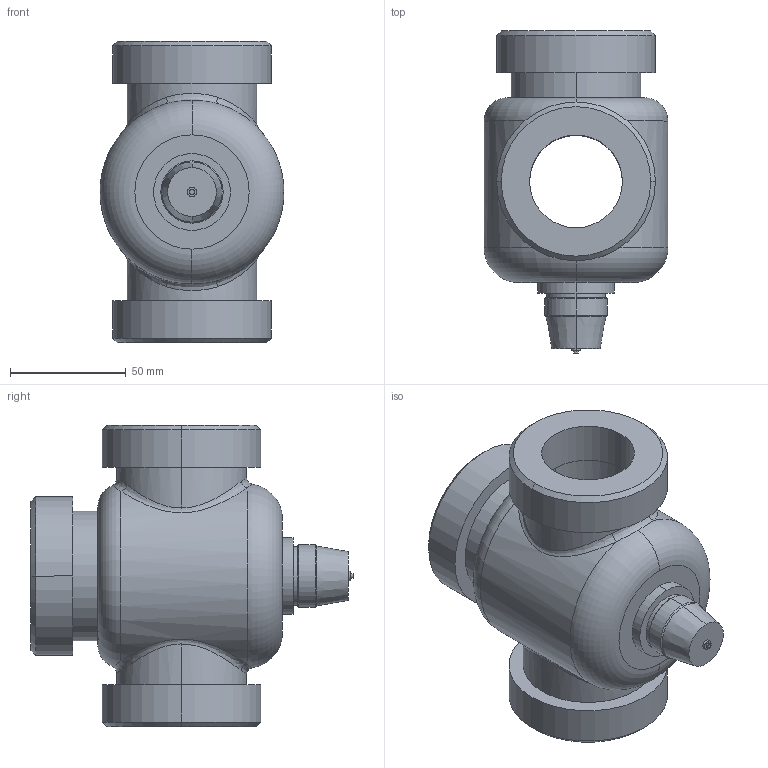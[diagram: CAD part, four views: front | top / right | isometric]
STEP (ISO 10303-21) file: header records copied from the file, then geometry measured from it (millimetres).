
FILE_DESCRIPTION((''),'2;1');
FILE_NAME('000376.dwg.stp','2006-10-04T11:28:51',(''),(''),'Mechanical Desktop 2006','Mechanical Desktop 2006',', , ');
FILE_SCHEMA(('AUTOMOTIVE_DESIGN { 1 2 10303 214 0 1 1 1 }'));
Length unit declared in the file: millimetre
Products named in the file (1): Product
Bounding box: 79.33 x 139 x 130 mm (x, y, z)
Volume: 443465.8 mm3; surface area: 82854.3 mm2
Topology: 10 solids, 10 shells, 81 faces, 165 edges, 104 vertices
Faces by surface type: cylinder 32, plane 21, bspline 12, cone 12, torus 4
Entity records: 3642 total; most frequent: CARTESIAN_POINT 1865, DIRECTION 377, ORIENTED_EDGE 330, AXIS2_PLACEMENT_3D 166, EDGE_CURVE 165, VERTEX_POINT 104, CIRCLE 92, EDGE_LOOP 91
